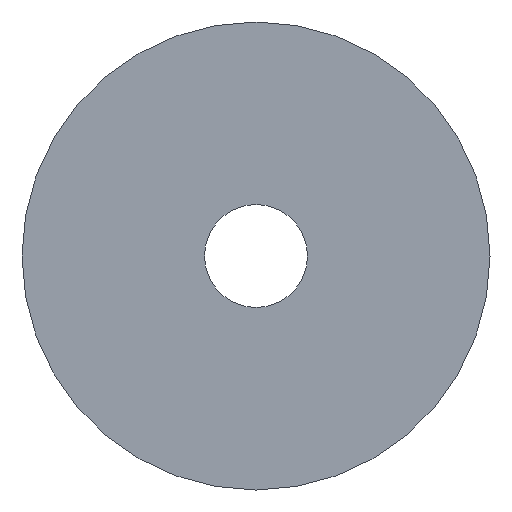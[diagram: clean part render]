
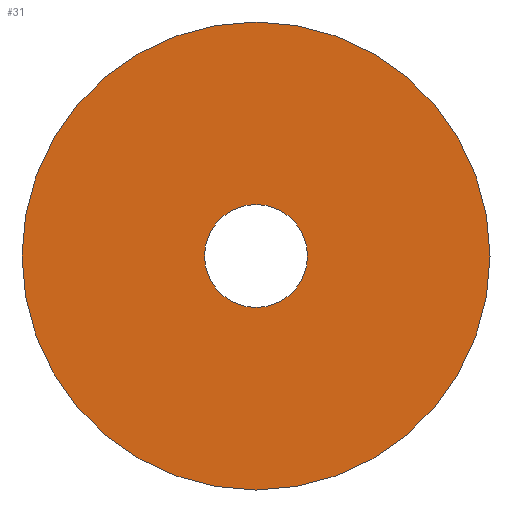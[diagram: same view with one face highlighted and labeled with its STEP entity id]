
A CAD part, left-side view. The second image highlights one B-rep face of the part: STEP entity #31.
In plain terms, the highlighted planar face has unit normal (-1, 0, 0).
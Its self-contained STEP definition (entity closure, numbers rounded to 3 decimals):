
#8 = VERTEX_POINT ( 'NONE', #118 ) ;
#14 = EDGE_LOOP ( 'NONE', ( #25, #27 ) ) ;
#15 = VERTEX_POINT ( 'NONE', #110 ) ;
#17 = EDGE_CURVE ( 'NONE', #8, #15, #105, .T. ) ;
#19 = ORIENTED_EDGE ( 'NONE', *, *, #22, .F. ) ;
#20 = ORIENTED_EDGE ( 'NONE', *, *, #17, .F. ) ;
#22 = EDGE_CURVE ( 'NONE', #15, #8, #81, .T. ) ;
#25 = ORIENTED_EDGE ( 'NONE', *, *, #26, .T. ) ;
#26 = EDGE_CURVE ( 'NONE', #98, #97, #75, .T. ) ;
#27 = ORIENTED_EDGE ( 'NONE', *, *, #96, .T. ) ;
#28 = EDGE_LOOP ( 'NONE', ( #19, #20 ) ) ;
#31 = ADVANCED_FACE ( 'NONE', ( #168, #167 ), #173, .F. ) ;
#71 = DIRECTION ( 'NONE',  ( 0., 0., -1. ) ) ;
#72 = DIRECTION ( 'NONE',  ( 1., 0., 0. ) ) ;
#73 = CARTESIAN_POINT ( 'NONE',  ( 0., 0., 0. ) ) ;
#74 = AXIS2_PLACEMENT_3D ( 'NONE', #73, #72, #71 ) ;
#75 = CIRCLE ( 'NONE', #74, 0.55 ) ;
#77 = DIRECTION ( 'NONE',  ( 0., 0., -1. ) ) ;
#78 = DIRECTION ( 'NONE',  ( 1., 0., 0. ) ) ;
#79 = CARTESIAN_POINT ( 'NONE',  ( 0., 0., 0. ) ) ;
#80 = AXIS2_PLACEMENT_3D ( 'NONE', #79, #78, #77 ) ;
#81 = CIRCLE ( 'NONE', #80, 2.5 ) ;
#96 = EDGE_CURVE ( 'NONE', #97, #98, #348, .T. ) ;
#97 = VERTEX_POINT ( 'NONE', #344 ) ;
#98 = VERTEX_POINT ( 'NONE', #343 ) ;
#101 = DIRECTION ( 'NONE',  ( 0., 0., -1. ) ) ;
#102 = DIRECTION ( 'NONE',  ( 1., 0., 0. ) ) ;
#103 = CARTESIAN_POINT ( 'NONE',  ( 0., 0., 0. ) ) ;
#104 = AXIS2_PLACEMENT_3D ( 'NONE', #103, #102, #101 ) ;
#105 = CIRCLE ( 'NONE', #104, 2.5 ) ;
#110 = CARTESIAN_POINT ( 'NONE',  ( 0., 0., 2.5 ) ) ;
#118 = CARTESIAN_POINT ( 'NONE',  ( 0., 0., -2.5 ) ) ;
#163 = DIRECTION ( 'NONE',  ( 0., 0., -1. ) ) ;
#164 = DIRECTION ( 'NONE',  ( 1., 0., 0. ) ) ;
#165 = CARTESIAN_POINT ( 'NONE',  ( 0., 0., 0. ) ) ;
#166 = AXIS2_PLACEMENT_3D ( 'NONE', #165, #164, #163 ) ;
#167 = FACE_OUTER_BOUND ( 'NONE', #28, .T. ) ;
#168 = FACE_BOUND ( 'NONE', #14, .T. ) ;
#173 = PLANE ( 'NONE',  #166 ) ;
#325 = CARTESIAN_POINT ( 'NONE',  ( 0., 0., 0. ) ) ;
#343 = CARTESIAN_POINT ( 'NONE',  ( 0., 0., -0.55 ) ) ;
#344 = CARTESIAN_POINT ( 'NONE',  ( 0., 0., 0.55 ) ) ;
#345 = DIRECTION ( 'NONE',  ( 0., 0., -1. ) ) ;
#346 = DIRECTION ( 'NONE',  ( 1., 0., 0. ) ) ;
#347 = AXIS2_PLACEMENT_3D ( 'NONE', #325, #346, #345 ) ;
#348 = CIRCLE ( 'NONE', #347, 0.55 ) ;
